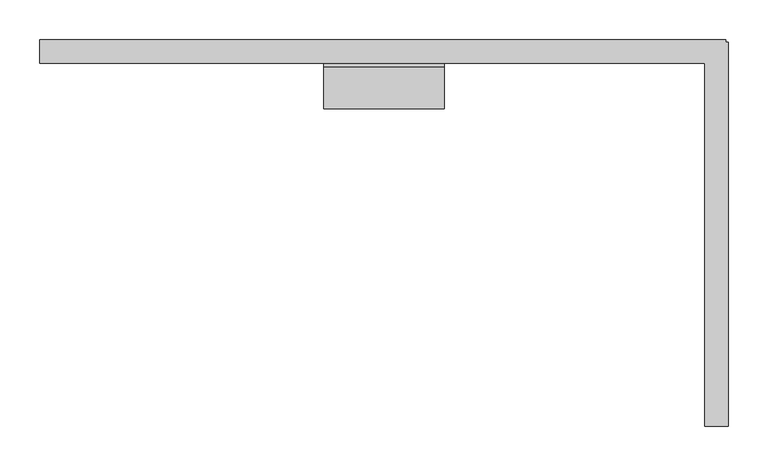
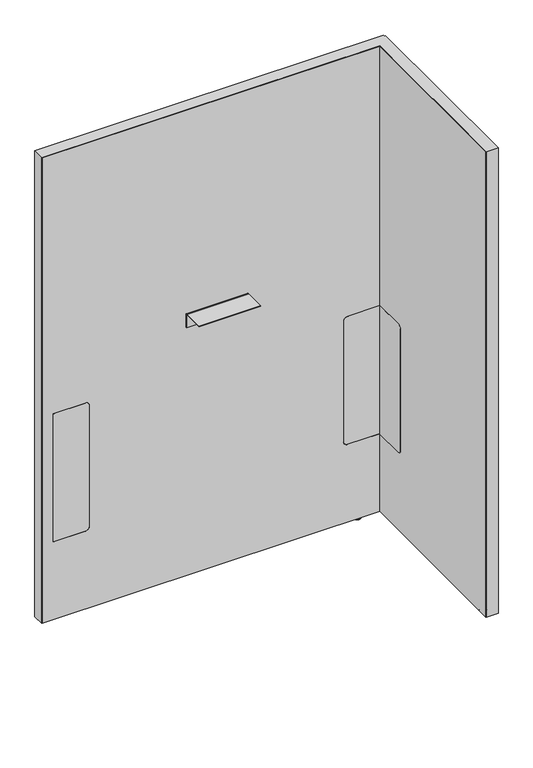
"""IFC4 building model written with IfcOpenShell, lengths in millimetres: furniture geometry, Steelcase - Answer Solution - Boundary Screen - L Return - Single Sided : 48H x 33W."""

from ifc_helpers import new_model, si_unit, point, frame, frame_2d, origin, place, context, project, spatial, polyline, circle_curve, ellipse_curve, trimmed, segment, composite_curve, outline, extrude, faceted_brep, source, transform, mapped, element, save
from ifc_brep_helpers import plane_surface, cylinder_surface, revolved_surface, advanced_brep


def furniture_b56090ad(model_context):
    return source(origin(), model_context, "Body", "SolidModel", [
        extrude(outline(composite_curve([segment(polyline([(-109.3501471, 549.6162029), (-29.0550397, 549.6162029), (-29.0550397, 213.7762137), (-109.3501471, 213.7762137)]), True, "CONTINUOUS"), segment(trimmed(circle_curve(frame_2d((-109.3501471, 223.9362137)), 10.16), [point((-109.3501471, 213.7762137))], [point((-119.5101471, 223.9362137))], False, "CARTESIAN"), True, "CONTINUOUS"), segment(polyline([(-119.5101471, 223.9362137), (-119.5101471, 539.4562029)]), True, "CONTINUOUS"), segment(trimmed(circle_curve(frame_2d((-109.3501471, 539.4562029)), 10.16), [point((-119.5101471, 539.4562029))], [point((-109.3501471, 549.6162029))], False, "CARTESIAN"), True, "CONTINUOUS")], self_intersect=False)), frame((1068.0191891, 0.0, 0.0), z_axis=(1.0, 0.0, 0.0), x_axis=(0.0, 1.0, 0.0)), (0.0, 0.0, 1.0), 0.6401544),
        advanced_brep(
        [(1082.8672074, -448.0136072, 0.0), (1089.8216144, -448.0136072, 0.0), (1075.9128003, -448.0136072, 0.0), (1091.2762685, -448.0136072, 1.2700001), (1074.4581463, -448.0136072, 1.2700001), (1091.2762685, -448.0136072, 2.9673238), (1074.4581463, -448.0136072, 2.9673238), (1092.2427877, -448.0136072, 2.9673238), (1073.491627, -448.0136072, 2.9673238), (1092.2427877, -448.0136072, 9.9059849), (1073.491627, -448.0136072, 9.9059849), (1082.8672074, -448.0136072, 9.9059849)],
        [
            (0, 1),
            (1, 2, circle_curve(frame((1082.8672074, -448.0136072, 0.0), z_axis=(0.0, 0.0, -1.0), x_axis=(1.0, 0.0, 0.0)), 6.9544071)),
            (2, 0),
            (2, 1, circle_curve(frame((1082.8672074, -448.0136072, 0.0), z_axis=(0.0, 0.0, -1.0), x_axis=(1.0, 0.0, 0.0)), 6.9544071)),
            (1, 3, circle_curve(frame((1089.9945484, -448.0136072, 1.2700001), z_axis=(0.0, -1.0, 0.0), x_axis=(0.0, 0.0, 1.0)), 1.2817201)),
            (3, 4, circle_curve(frame((1082.8672074, -448.0136072, 1.2700001), z_axis=(0.0, 0.0, -1.0), x_axis=(1.0, 0.0, 0.0)), 8.4090611)),
            (4, 2, circle_curve(frame((1075.7398663, -448.0136072, 1.2700001), z_axis=(0.0, -1.0, 0.0), x_axis=(0.0, 0.0, 1.0)), 1.2817201)),
            (4, 3, circle_curve(frame((1082.8672074, -448.0136072, 1.2700001), z_axis=(0.0, 0.0, -1.0), x_axis=(1.0, 0.0, 0.0)), 8.4090611)),
            (3, 5),
            (5, 6, circle_curve(frame((1082.8672074, -448.0136072, 2.9673238), z_axis=(0.0, 0.0, -1.0), x_axis=(1.0, 0.0, 0.0)), 8.4090611)),
            (6, 4),
            (6, 5, circle_curve(frame((1082.8672074, -448.0136072, 2.9673238), z_axis=(0.0, 0.0, -1.0), x_axis=(1.0, 0.0, 0.0)), 8.4090611)),
            (5, 7),
            (7, 8, circle_curve(frame((1082.8672074, -448.0136072, 2.9673238), z_axis=(0.0, 0.0, -1.0), x_axis=(1.0, 0.0, 0.0)), 9.3755804)),
            (8, 6),
            (8, 7, circle_curve(frame((1082.8672074, -448.0136072, 2.9673238), z_axis=(0.0, 0.0, -1.0), x_axis=(1.0, 0.0, 0.0)), 9.3755804)),
            (7, 9),
            (9, 10, circle_curve(frame((1082.8672074, -448.0136072, 9.9059849), z_axis=(0.0, 0.0, -1.0), x_axis=(1.0, 0.0, 0.0)), 9.3755804)),
            (10, 8),
            (10, 9, circle_curve(frame((1082.8672074, -448.0136072, 9.9059849), z_axis=(0.0, 0.0, -1.0), x_axis=(1.0, 0.0, 0.0)), 9.3755804)),
            (9, 11),
            (11, 10),
        ],
        [
            plane_surface(frame((1082.8672074, -448.0136072, 0.0), z_axis=(0.0, 0.0, -1.0), x_axis=(1.0, 0.0, 0.0))),
            revolved_surface(trimmed(ellipse_curve(frame((1089.9945484, -448.0136072, 1.2700001), z_axis=(0.0, 1.0, 0.0), x_axis=(0.0, 0.0, 1.0)), 1.2817201, 1.2817201), [point((1091.2762685, -448.0136072, 1.2700001))], [point((1089.8216144, -448.0136072, 0.0))], True, "CARTESIAN"), (1082.8672074, -448.0136072, 9.9059849), (0.0, 0.0, -1.0)),
            cylinder_surface(frame((1082.8672074, -448.0136072, 9.9059849), z_axis=(0.0, 0.0, -1.0), x_axis=(1.0, 0.0, 0.0)), 8.4090611),
            plane_surface(frame((1082.8672074, -448.0136072, 2.9673238), z_axis=(0.0, 0.0, -1.0), x_axis=(1.0, 0.0, 0.0))),
            cylinder_surface(frame((1082.8672074, -448.0136072, 9.9059849), z_axis=(0.0, 0.0, -1.0), x_axis=(1.0, 0.0, 0.0)), 9.3755804),
            plane_surface(frame((1082.8672074, -448.0136072, 9.9059849), z_axis=(0.0, 0.0, 1.0), x_axis=(1.0, 0.0, 0.0))),
        ],
        [
            (0, [[1, 2, 3]]),
            (0, [[-3, 4, -1]]),
            (1, [[-2, 5, 6, 7]]),
            (1, [[-4, -7, 8, -5]]),
            (2, [[-6, 9, 10, 11]]),
            (2, [[-8, -11, 12, -9]]),
            (3, [[-10, 13, 14, 15]]),
            (3, [[-12, -15, 16, -13]]),
            (4, [[-14, 17, 18, 19]]),
            (4, [[-16, -19, 20, -17]]),
            (5, [[-18, 21, 22]]),
            (5, [[-20, -22, -21]]),
        ],
    ),
        faceted_brep([(1094.4531179, 0.0, 1230.122), (1094.4531179, 0.0, 9.9059849), (1093.4621491, 0.0, 9.9059849), (1093.4621491, 0.0, 1229.142118), (230.8097779, 0.0, 1229.142118), (230.8097779, 0.0, 9.9059849), (229.8191891, 0.0, 9.9059849), (229.8191891, 0.0, 1230.122), (229.8191891, -29.6898332, 1230.122), (229.8191891, -29.6898332, 9.9059849), (230.8097779, -29.6898332, 9.9059849), (230.8097779, -29.6898332, 1229.142118), (1068.0191891, -29.6898332, 1229.142118), (1068.0191891, -29.6898332, 1230.122), (1093.4621491, -29.6898332, 1229.142118), (1093.4621491, -29.6898332, 9.9059849), (1094.4531179, -29.6898332, 9.9059849), (1094.4531179, -29.6898332, 1229.142118), (1094.4531179, -3.2625916, 1230.122), (1094.4531179, -3.2625916, 9.9059849), (1094.4531179, -4.252647, 9.9059849), (1094.4531179, -4.252647, 1229.142118), (1097.7152256, -3.2625916, 9.9059849), (1097.7152256, -4.252647, 9.9059849), (1093.4621491, -4.252647, 9.9059849), (1068.0191891, -4.252647, 9.9059849), (1068.0191891, -3.2625916, 9.9059849), (1093.4621491, -3.2625916, 9.9059849), (1068.0191891, -486.8898332, 1230.122), (1097.7152256, -486.8898332, 1230.122), (1097.7152256, -3.2625916, 1230.122), (1093.4621491, -3.2625916, 1229.142118), (1093.4621491, -4.252647, 1229.142118), (1068.0191891, -3.2625916, 1229.142118), (1068.0191891, -4.252647, 1229.142118), (1097.7152256, -4.252647, 1229.142118), (1097.7152256, -485.899196, 1229.142118), (1068.0191891, -485.899196, 1229.142118), (1068.0191891, -485.899196, 9.9059849), (1068.0191891, -486.8898332, 9.9059849), (1097.7152256, -486.8898332, 9.9059849), (1097.7152256, -485.899196, 9.9059849)], [[[0, 1, 2, 3, 4, 5, 6, 7]], [[8, 9, 10, 11, 12, 13]], [[14, 15, 16, 17]], [[1, 0, 18, 19]], [[17, 16, 20, 21]], [[2, 1, 19, 22, 23, 20, 16, 15, 24, 25, 26, 27]], [[7, 6, 9, 8]], [[0, 7, 8, 13, 28, 29, 30, 18]], [[3, 2, 27, 31]], [[15, 14, 32, 24]], [[4, 3, 31, 33, 34, 32, 14, 17, 21, 35, 36, 37, 12, 11]], [[5, 4, 11, 10]], [[6, 5, 10, 9]], [[26, 25, 34, 33]], [[37, 38, 39, 28, 13, 12]], [[29, 40, 41, 36, 35, 23, 22, 30]], [[27, 26, 33, 31]], [[30, 22, 19, 18]], [[34, 25, 24, 32]], [[23, 35, 21, 20]], [[38, 37, 36, 41]], [[39, 38, 41, 40]], [[28, 39, 40, 29]]]),
        extrude(outline(composite_curve([segment(polyline([(-86.8398151, 696.4680019), (-86.8398151, 698.5), (-34.9450855, 698.5)]), True, "CONTINUOUS"), segment(trimmed(circle_curve(frame_2d((-34.9450855, 693.2447477)), 5.2552523), [point((-34.9450855, 698.5))], [point((-29.6898332, 693.2447477))], False, "CARTESIAN"), True, "CONTINUOUS"), segment(polyline([(-29.6898332, 693.2447477), (-29.6898332, 660.4), (-31.7218162, 660.4), (-31.7218162, 693.0058743)]), True, "CONTINUOUS"), segment(trimmed(circle_curve(frame_2d((-35.1839438, 693.0058743)), 3.4621276), [point((-31.7218162, 693.0058743))], [point((-35.1839438, 696.4680019))], True, "CARTESIAN"), True, "CONTINUOUS"), segment(polyline([(-35.1839438, 696.4680019), (-86.8398151, 696.4680019)]), True, "CONTINUOUS")], self_intersect=False)), frame((587.5685899, 0.0, 0.0), z_axis=(1.0, 0.0, 0.0), x_axis=(0.0, 1.0, 0.0)), (0.0, 0.0, 1.0), 152.4000969),
        advanced_brep(
        [(1020.5246853, -23.7588726, 9.9059849), (1020.5246853, -5.9309607, 9.9059849), (1020.5246853, -14.8449166, 9.9059849), (1020.5246853, -23.7588726, 2.9673238), (1020.5246853, -5.9309607, 2.9673238), (1020.5246853, -22.7915354, 2.9673238), (1020.5246853, -6.8982978, 2.9673238), (1020.5246853, -22.7915354, 1.6569081), (1020.5246853, -6.8982978, 1.6569081), (1020.5246853, -21.1346274, 0.0), (1020.5246853, -8.5552059, 0.0), (1020.5246853, -14.8449166, 0.0)],
        [
            (0, 1, circle_curve(frame((1020.5246853, -14.8449166, 9.9059849), z_axis=(0.0, 0.0, 1.0), x_axis=(0.0, 1.0, 0.0)), 8.913956)),
            (1, 2),
            (2, 0),
            (1, 0, circle_curve(frame((1020.5246853, -14.8449166, 9.9059849), z_axis=(0.0, 0.0, 1.0), x_axis=(0.0, 1.0, 0.0)), 8.913956)),
            (3, 4, circle_curve(frame((1020.5246853, -14.8449166, 2.9673238), z_axis=(0.0, 0.0, 1.0), x_axis=(0.0, 1.0, 0.0)), 8.913956)),
            (4, 1),
            (0, 3),
            (4, 3, circle_curve(frame((1020.5246853, -14.8449166, 2.9673238), z_axis=(0.0, 0.0, 1.0), x_axis=(0.0, 1.0, 0.0)), 8.913956)),
            (5, 6, circle_curve(frame((1020.5246853, -14.8449166, 2.9673238), z_axis=(0.0, 0.0, 1.0), x_axis=(0.0, 1.0, 0.0)), 7.9466188)),
            (6, 4),
            (3, 5),
            (6, 5, circle_curve(frame((1020.5246853, -14.8449166, 2.9673238), z_axis=(0.0, 0.0, 1.0), x_axis=(0.0, 1.0, 0.0)), 7.9466188)),
            (7, 8, circle_curve(frame((1020.5246853, -14.8449166, 1.6569081), z_axis=(0.0, 0.0, 1.0), x_axis=(0.0, 1.0, 0.0)), 7.9466188)),
            (8, 6),
            (5, 7),
            (8, 7, circle_curve(frame((1020.5246853, -14.8449166, 1.6569081), z_axis=(0.0, 0.0, 1.0), x_axis=(0.0, 1.0, 0.0)), 7.9466188)),
            (9, 10, circle_curve(frame((1020.5246853, -14.8449166, 0.0), z_axis=(0.0, 0.0, 1.0), x_axis=(0.0, 1.0, 0.0)), 6.2897107)),
            (10, 8, circle_curve(frame((1020.5246853, -8.5552059, 1.6569081), z_axis=(1.0, 0.0, 0.0), x_axis=(0.0, 1.0, 0.0)), 1.6569081)),
            (7, 9, circle_curve(frame((1020.5246853, -21.1346274, 1.6569081), z_axis=(1.0, 0.0, 0.0), x_axis=(0.0, -1.0, 0.0)), 1.6569081)),
            (10, 9, circle_curve(frame((1020.5246853, -14.8449166, 0.0), z_axis=(0.0, 0.0, 1.0), x_axis=(0.0, 1.0, 0.0)), 6.2897107)),
            (11, 10),
            (9, 11),
        ],
        [
            plane_surface(frame((1020.5246853, -14.8449166, 9.9059849), z_axis=(0.0, 0.0, 1.0), x_axis=(0.0, 1.0, 0.0))),
            cylinder_surface(frame((1020.5246853, -14.8449166, 9.9059849), z_axis=(0.0, 0.0, -1.0), x_axis=(0.0, 1.0, 0.0)), 8.913956),
            plane_surface(frame((1020.5246853, -14.8449166, 2.9673238), z_axis=(0.0, 0.0, -1.0), x_axis=(0.0, 1.0, 0.0))),
            cylinder_surface(frame((1020.5246853, -14.8449166, 9.9059849), z_axis=(0.0, 0.0, -1.0), x_axis=(0.0, 1.0, 0.0)), 7.9466188),
            revolved_surface(trimmed(ellipse_curve(frame((1020.5246853, -8.5552059, 1.6569081), z_axis=(-1.0, 0.0, 0.0), x_axis=(0.0, 1.0, 0.0)), 1.6569081, 1.6569081), [point((1020.5246853, -6.8982978, 1.6569081))], [point((1020.5246853, -8.5552059, 0.0))], True, "CARTESIAN"), (1020.5246853, -14.8449166, 9.9059849), (0.0, 0.0, -1.0)),
            plane_surface(frame((1020.5246853, -14.8449166, 0.0), z_axis=(0.0, 0.0, -1.0), x_axis=(0.0, 1.0, 0.0))),
        ],
        [
            (0, [[1, 2, 3]]),
            (0, [[4, -3, -2]]),
            (1, [[5, 6, -1, 7]]),
            (1, [[8, -7, -4, -6]]),
            (2, [[9, 10, -5, 11]]),
            (2, [[12, -11, -8, -10]]),
            (3, [[13, 14, -9, 15]]),
            (3, [[16, -15, -12, -14]]),
            (4, [[17, 18, -13, 19]]),
            (4, [[20, -19, -16, -18]]),
            (5, [[21, -17, 22]]),
            (5, [[-22, -20, -21]]),
        ],
    ),
        advanced_brep(
        [(230.8097779, 0.0, 1229.142118), (1093.4621491, 0.0, 1229.142118), (1093.4621491, 0.0, 9.9059849), (230.8097779, 0.0, 9.9059849), (347.9483813, -29.0550397, 539.4562029), (337.7883813, -29.0550397, 549.6162029), (258.1344836, -29.0550397, 549.6162029), (258.1344836, -29.0550397, 213.7762137), (337.7883813, -29.0550397, 213.7762137), (347.9483813, -29.0550397, 223.9362137), (1068.6593435, -29.0550397, 213.7762137), (1068.6593435, -29.0550397, 549.6162029), (988.1109268, -29.0550397, 549.6162029), (977.9509268, -29.0550397, 539.4562029), (977.9509268, -29.0550397, 223.9362137), (988.1109268, -29.0550397, 213.7762137), (230.8097779, -29.6898332, 1229.142118), (230.8097779, -29.6898332, 9.9059849), (1068.0191891, -29.6898332, 9.9059849), (1068.0191891, -29.6898332, 213.7762137), (988.1109268, -29.6898332, 213.7762137), (977.9509268, -29.6898332, 223.9362137), (977.9509268, -29.6898332, 539.4562029), (988.1109268, -29.6898332, 549.6162029), (1068.0191891, -29.6898332, 549.6162029), (1068.0191891, -29.6898332, 1229.142118), (337.7883813, -29.6898332, 549.6162029), (347.9483813, -29.6898332, 539.4562029), (347.9483813, -29.6898332, 223.9362137), (337.7883813, -29.6898332, 213.7762137), (258.1344836, -29.6898332, 213.7762137), (258.1344836, -29.6898332, 549.6162029), (1093.4621491, -4.252647, 9.9059849), (1097.7152256, -4.252647, 9.9059849), (1097.7152256, -485.899196, 9.9059849), (1068.0191891, -485.899196, 9.9059849), (1093.4621491, -4.252647, 1229.142118), (1068.0191891, -485.899196, 1229.142118), (1097.7152256, -485.899196, 1229.142118), (1097.7152256, -4.252647, 1229.142118), (1068.6593435, -109.3501471, 549.6162029), (1068.0191891, -109.3501471, 549.6162029), (1068.6593435, -109.3501471, 213.7762137), (1068.6593435, -119.5101471, 223.9362137), (1068.6593435, -119.5101471, 539.4562029), (1068.0191891, -109.3501471, 213.7762137), (1068.0191891, -119.5101471, 539.4562029), (1068.0191891, -119.5101471, 223.9362137)],
        [
            (0, 1),
            (1, 2),
            (2, 3),
            (3, 0),
            (4, 5, circle_curve(frame((337.7883813, -29.0550397, 539.4562029), z_axis=(0.0, -1.0, 0.0), x_axis=(0.0, 0.0, 1.0)), 10.16)),
            (5, 6),
            (6, 7),
            (7, 8),
            (8, 9, circle_curve(frame((337.7883813, -29.0550397, 223.9362137), z_axis=(0.0, -1.0, 0.0), x_axis=(0.0, 0.0, 1.0)), 10.16)),
            (9, 4),
            (10, 11),
            (11, 12),
            (12, 13, circle_curve(frame((988.1109268, -29.0550397, 539.4562029), z_axis=(0.0, -1.0, 0.0), x_axis=(0.0, 0.0, 1.0)), 10.16)),
            (13, 14),
            (14, 15, circle_curve(frame((988.1109268, -29.0550397, 223.9362137), z_axis=(0.0, -1.0, 0.0), x_axis=(0.0, 0.0, 1.0)), 10.16)),
            (15, 10),
            (16, 17),
            (17, 18),
            (18, 19),
            (19, 20),
            (20, 21, circle_curve(frame((988.1109268, -29.6898332, 223.9362137), z_axis=(0.0, 1.0, 0.0), x_axis=(0.0, 0.0, 1.0)), 10.16)),
            (21, 22),
            (22, 23, circle_curve(frame((988.1109268, -29.6898332, 539.4562029), z_axis=(0.0, 1.0, 0.0), x_axis=(0.0, 0.0, 1.0)), 10.16)),
            (23, 24),
            (24, 25),
            (25, 16),
            (26, 27, circle_curve(frame((337.7883813, -29.6898332, 539.4562029), z_axis=(0.0, 1.0, 0.0), x_axis=(0.0, 0.0, 1.0)), 10.16)),
            (27, 28),
            (28, 29, circle_curve(frame((337.7883813, -29.6898332, 223.9362137), z_axis=(0.0, 1.0, 0.0), x_axis=(0.0, 0.0, 1.0)), 10.16)),
            (29, 30),
            (30, 31),
            (31, 26),
            (16, 0),
            (3, 17),
            (2, 32),
            (32, 33),
            (33, 34),
            (34, 35),
            (35, 18),
            (1, 36),
            (36, 32),
            (25, 37),
            (37, 38),
            (38, 39),
            (39, 36),
            (26, 5),
            (4, 27),
            (9, 28),
            (8, 29),
            (7, 30),
            (6, 31),
            (11, 40),
            (40, 41),
            (41, 24),
            (23, 12),
            (42, 43, circle_curve(frame((1068.6593435, -109.3501471, 223.9362137), z_axis=(-1.0, 0.0, 0.0), x_axis=(0.0, 1.0, 0.0)), 10.16)),
            (43, 44),
            (44, 40, circle_curve(frame((1068.6593435, -109.3501471, 539.4562029), z_axis=(-1.0, 0.0, 0.0), x_axis=(0.0, 1.0, 0.0)), 10.16)),
            (10, 42),
            (15, 20),
            (19, 45),
            (45, 42),
            (14, 21),
            (13, 22),
            (35, 37),
            (41, 46, circle_curve(frame((1068.0191891, -109.3501471, 539.4562029), z_axis=(1.0, 0.0, 0.0), x_axis=(0.0, 1.0, 0.0)), 10.16)),
            (46, 47),
            (47, 45, circle_curve(frame((1068.0191891, -109.3501471, 223.9362137), z_axis=(1.0, 0.0, 0.0), x_axis=(0.0, 1.0, 0.0)), 10.16)),
            (38, 34),
            (33, 39),
            (44, 46),
            (43, 47),
        ],
        [
            plane_surface(frame((347.9483813, 0.0, 549.6162029), z_axis=(0.0, 1.0, 0.0), x_axis=(0.0, 0.0, -1.0))),
            plane_surface(frame((347.9483813, -29.0550397, 549.6162029), z_axis=(0.0, -1.0, 0.0), x_axis=(0.0, 0.0, 1.0))),
            plane_surface(frame((1093.4621491, -29.6898332, 1229.142118), z_axis=(0.0, -1.0, 0.0), x_axis=(-1.0, 0.0, 0.0))),
            plane_surface(frame((230.8097779, 0.0, 9.9059849), z_axis=(-1.0, 0.0, 0.0), x_axis=(0.0, -1.0, 0.0))),
            plane_surface(frame((1093.4621491, 0.0, 9.9059849), z_axis=(0.0, 0.0, -1.0), x_axis=(0.0, -1.0, 0.0))),
            plane_surface(frame((1093.4621491, 0.0, 1229.142118), z_axis=(1.0, 0.0, 0.0), x_axis=(0.0, -1.0, 0.0))),
            plane_surface(frame((230.8097779, 0.0, 1229.142118), z_axis=(0.0, 0.0, 1.0), x_axis=(0.0, -1.0, 0.0))),
            revolved_surface(polyline([(337.7883813, -29.6898332, 549.6162029), (337.7883813, -29.0550397, 549.6162029)]), (337.7883813, -29.6898332, 539.4562029), (0.0, -1.0, 0.0)),
            plane_surface(frame((347.9483813, 0.0, 223.9362137), z_axis=(-1.0, 0.0, 0.0), x_axis=(0.0, -1.0, 0.0))),
            revolved_surface(polyline([(337.7883813, -29.6898332, 234.0962137), (337.7883813, -29.0550397, 234.0962137)]), (337.7883813, -29.6898332, 223.9362137), (0.0, -1.0, 0.0)),
            plane_surface(frame((258.1344836, 0.0, 213.7762137), z_axis=(0.0, 0.0, 1.0), x_axis=(0.0, -1.0, 0.0))),
            plane_surface(frame((258.1344836, 0.0, 549.6162029), z_axis=(1.0, 0.0, 0.0), x_axis=(0.0, -1.0, 0.0))),
            plane_surface(frame((337.7883813, 0.0, 549.6162029), z_axis=(0.0, 0.0, -1.0), x_axis=(0.0, -1.0, 0.0))),
            plane_surface(frame((1068.6593435, 0.0, 549.6162029), z_axis=(0.0, 0.0, -1.0), x_axis=(0.0, -1.0, 0.0))),
            plane_surface(frame((1068.6593435, 0.0, 213.7762137), z_axis=(-1.0, 0.0, 0.0), x_axis=(0.0, -1.0, 0.0))),
            plane_surface(frame((988.1109268, 0.0, 213.7762137), z_axis=(0.0, 0.0, 1.0), x_axis=(0.0, -1.0, 0.0))),
            revolved_surface(polyline([(988.1109268, -29.6898332, 234.0962137), (988.1109268, -29.0550397, 234.0962137)]), (988.1109268, -29.6898332, 223.9362137), (0.0, -1.0, 0.0)),
            plane_surface(frame((977.9509268, 0.0, 539.4562029), z_axis=(1.0, 0.0, 0.0), x_axis=(0.0, -1.0, 0.0))),
            revolved_surface(polyline([(988.1109268, -29.6898332, 549.6162029), (988.1109268, -29.0550397, 549.6162029)]), (988.1109268, -29.6898332, 539.4562029), (0.0, -1.0, 0.0)),
            plane_surface(frame((1068.0191891, -485.899196, 1229.142118), z_axis=(-1.0, 0.0, 0.0), x_axis=(0.0, 0.0, 1.0))),
            plane_surface(frame((1097.7152256, -485.899196, 1229.142118), z_axis=(1.0, 0.0, 0.0), x_axis=(0.0, 0.0, -1.0))),
            plane_surface(frame((1097.7152256, -4.252647, 9.9059849), z_axis=(0.0, 1.0, 0.0), x_axis=(-1.0, 0.0, 0.0))),
            plane_surface(frame((1097.7152256, -485.899196, 1229.142118), z_axis=(0.0, -1.0, 0.0), x_axis=(-1.0, 0.0, 0.0))),
            revolved_surface(polyline([(1068.0191891, -99.1901471, 539.4562029), (1068.6593435, -99.1901471, 539.4562029)]), (-340.6902705, -109.3501471, 539.4562029), (-1.0, 0.0, 0.0)),
            plane_surface(frame((1097.7152256, -119.5101471, 223.9362137), z_axis=(0.0, 1.0, 0.0), x_axis=(-1.0, 0.0, 0.0))),
            revolved_surface(polyline([(1068.0191891, -99.1901471, 223.9362137), (1068.6593435, -99.1901471, 223.9362137)]), (-340.6902705, -109.3501471, 223.9362137), (-1.0, 0.0, 0.0)),
        ],
        [
            (0, [[1, 2, 3, 4]]),
            (1, [[5, 6, 7, 8, 9, 10]]),
            (1, [[11, 12, 13, 14, 15, 16]]),
            (2, [[17, 18, 19, 20, 21, 22, 23, 24, 25, 26], [27, 28, 29, 30, 31, 32]]),
            (3, [[-17, 33, -4, 34]]),
            (4, [[-3, 35, 36, 37, 38, 39, -18, -34]]),
            (5, [[-2, 40, 41, -35]]),
            (6, [[-1, -33, -26, 42, 43, 44, 45, -40]]),
            (7, [[-27, 46, -5, 47]]),
            (8, [[-28, -47, -10, 48]]),
            (9, [[-29, -48, -9, 49]]),
            (10, [[-30, -49, -8, 50]]),
            (11, [[-31, -50, -7, 51]]),
            (12, [[-32, -51, -6, -46]]),
            (13, [[52, 53, 54, -24, 55, -12]]),
            (14, [[56, 57, 58, -52, -11, 59]]),
            (15, [[-59, -16, 60, -20, 61, 62]]),
            (16, [[-21, -60, -15, 63]]),
            (17, [[-22, -63, -14, 64]]),
            (18, [[-23, -64, -13, -55]]),
            (19, [[65, -42, -25, -54, 66, 67, 68, -61, -19, -39]]),
            (20, [[69, -37, 70, -44]]),
            (21, [[-70, -36, -41, -45]]),
            (22, [[-65, -38, -69, -43]]),
            (23, [[-66, -53, -58, 71]]),
            (24, [[-67, -71, -57, 72]]),
            (25, [[-68, -72, -56, -62]]),
        ],
    ),
        extrude(outline(composite_curve([segment(polyline([(549.6162029, 337.7883813), (549.6162029, 258.1344836), (213.7762137, 258.1344836), (213.7762137, 337.7883813)]), True, "CONTINUOUS"), segment(trimmed(circle_curve(frame_2d((223.9362137, 337.7883813)), 10.16), [point((213.7762137, 337.7883813))], [point((223.9362137, 347.9483813))], False, "CARTESIAN"), True, "CONTINUOUS"), segment(polyline([(223.9362137, 347.9483813), (539.4562029, 347.9483813)]), True, "CONTINUOUS"), segment(trimmed(circle_curve(frame_2d((539.4562029, 337.7883813)), 10.16), [point((539.4562029, 347.9483813))], [point((549.6162029, 337.7883813))], False, "CARTESIAN"), True, "CONTINUOUS")], self_intersect=False)), frame((0.0, -29.6898332, 0.0), z_axis=(0.0, 1.0, 0.0), x_axis=(0.0, 0.0, 1.0)), (0.0, 0.0, 1.0), 0.6347935),
        extrude(outline(composite_curve([segment(trimmed(circle_curve(frame_2d((539.4562029, 988.1109268)), 10.16), [point((549.6162029, 988.1109268))], [point((539.4562029, 977.9509268))], False, "CARTESIAN"), True, "CONTINUOUS"), segment(polyline([(539.4562029, 977.9509268), (223.9362137, 977.9509268)]), True, "CONTINUOUS"), segment(trimmed(circle_curve(frame_2d((223.9362137, 988.1109268)), 10.16), [point((223.9362137, 977.9509268))], [point((213.7762137, 988.1109268))], False, "CARTESIAN"), True, "CONTINUOUS"), segment(polyline([(213.7762137, 988.1109268), (213.7762137, 1068.0191891), (549.6162029, 1068.0191891), (549.6162029, 988.1109268)]), True, "CONTINUOUS")], self_intersect=False)), frame((0.0, -29.6898332, 0.0), z_axis=(0.0, 1.0, 0.0), x_axis=(0.0, 0.0, 1.0)), (0.0, 0.0, 1.0), 0.6347935),
    ])


if __name__ == "__main__":
    model = new_model("IFC4")
    model_context = context("Model", 3, world=origin())
    ifc_project = project(units=[si_unit("LENGTHUNIT", "METRE", prefix="MILLI")], contexts=[model_context])
    site = spatial("IfcSite", under=ifc_project)
    building = spatial("IfcBuilding", under=site)
    placement = place(None, origin())
    furniture_shape = furniture_b56090ad(model_context)
    element("IfcFurniture", 1, ObjectType="Steelcase - Answer Solution - Boundary Screen - L Return - Single Sided : 48H x 33W", at=placement, inside=building, context=model_context, shape_type="MappedRepresentation", body=[
        mapped(furniture_shape, transform((0.0, 0.0, 0.0), x_axis=(1.0, 0.0, 0.0), y_axis=(0.0, 1.0, 0.0), z_axis=(0.0, 0.0, 1.0))),
    ])
    save(model, "model.ifc")
